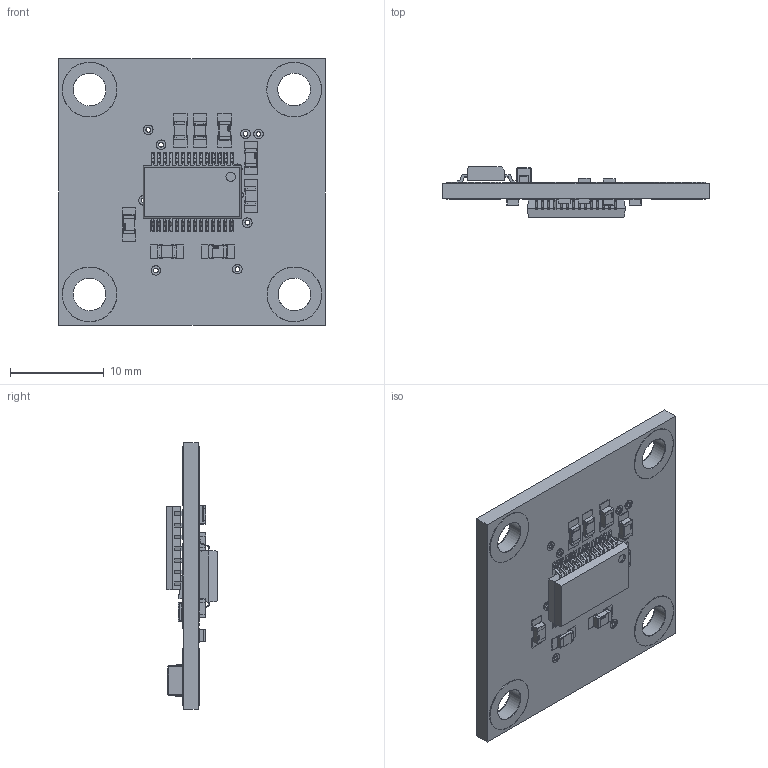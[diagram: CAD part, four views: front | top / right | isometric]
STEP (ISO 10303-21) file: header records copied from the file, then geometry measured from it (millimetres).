
FILE_DESCRIPTION (( 'STEP AP203' ), '1' );
FILE_NAME ('MODM218-3D.STEP', '2019-03-06T10:14:13', ( '' ), ( '' ), 'SwSTEP 2.0', 'SolidWorks 2016', '' );
FILE_SCHEMA (( 'CONFIG_CONTROL_DESIGN' ));
Products named in the file (1): MODM218-3D
Bounding box: 28.45 x 5.41 x 28.45 mm (x, y, z)
Volume: 1432.9 mm3; surface area: 3085.3 mm2
Topology: 174 solids, 174 shells, 2168 faces, 5076 edges, 3276 vertices
Faces by surface type: plane 1478, bspline 440, cylinder 250
Entity records: 83117 total; most frequent: CARTESIAN_POINT 37135, ORIENTED_EDGE 10088, DIRECTION 7682, EDGE_CURVE 5044, VECTOR 3528, LINE 3528, VERTEX_POINT 3276, EDGE_LOOP 2340
